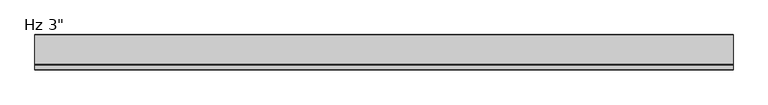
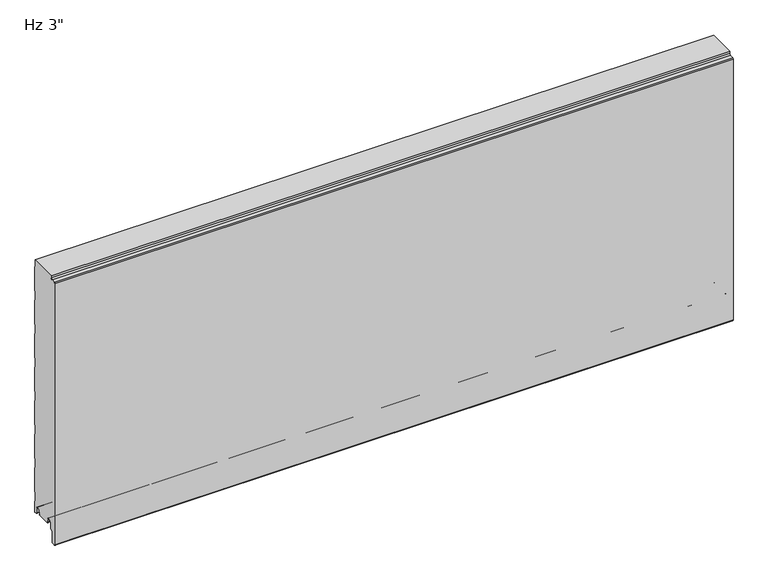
"""IFC4 building model written with IfcOpenShell, lengths in millimetres: plate geometry."""

from ifc_helpers import new_model, si_unit, frame, origin, place, context, project, spatial, polyline, circle_curve, source, transform, mapped, element, save
from ifc_brep_helpers import plane_surface, cylinder_surface, revolved_surface, advanced_brep


def plate_3cf2e204(model_context):
    return source(origin(), model_context, "Body", "AdvancedBrep", [
        advanced_brep(
        [(-730.0, -47.8708959, 1.0316999), (-730.0, -46.7014212, 2.2328239), (-730.0, -46.7014212, 5.9912173), (-730.0, -48.0999001, 5.9912173), (-730.0, -48.0999001, 8.6903283), (-730.0, -51.4498954, 12.0403236), (-730.0, -55.8498866, 12.0403236), (-730.0, -59.1998819, 8.6903283), (-730.0, -59.1998819, -3.1205608), (-730.0, -59.6977988, -4.3226385), (-730.0, -65.1998699, -9.8247096), (-730.0, -65.1998699, -31.9198392), (-730.0, -67.4184719, -34.5765709), (-730.0, -72.4002927, -35.0125699), (-730.0, -75.1946177, -32.4521176), (-730.0, -75.2000209, 561.115622), (-730.0, -73.4149468, 563.0669057), (-730.0, -64.95397, 563.821161), (-730.0, -62.1906671, 566.9653654), (-730.0, -62.1906671, 571.2), (-730.0, -2.2002516, 571.2), (-730.0, -2.2002516, 555.8186019), (-730.0, -1.0000209, 554.4329689), (-730.0, -1.0000209, 500.3795535), (-730.0, -2.2002516, 498.9939206), (-730.0, -2.2002516, 479.6187543), (-730.0, -1.0000209, 478.2331213), (-730.0, -1.0000209, 424.1797059), (-730.0, -2.2002516, 422.794073), (-730.0, -2.2002516, 403.4189067), (-730.0, -1.0000209, 402.0332737), (-730.0, -1.0000209, 347.9798583), (-730.0, -2.2002516, 346.5942254), (-730.0, -2.2002516, 327.2190591), (-730.0, -1.0000209, 325.8334261), (-730.0, -1.0000209, 271.7800107), (-730.0, -2.2002516, 270.3943778), (-730.0, -2.2002516, 251.0192115), (-730.0, -1.0000209, 249.6335785), (-730.0, -1.0000209, 195.5801631), (-730.0, -2.2002516, 194.1945302), (-730.0, -2.2002516, 174.8193639), (-730.0, -1.0000209, 173.4337309), (-730.0, -1.0000209, 119.3803155), (-730.0, -2.2002516, 117.9946826), (-730.0, -2.2002516, 98.6195163), (-730.0, -1.0000209, 97.2338833), (-730.0, -1.0000209, 43.1804679), (-730.0, -2.2002516, 41.794835), (-730.0, -2.2002516, 22.4196687), (-730.0, -1.0000126, 21.034026), (-730.0, -1.0000126, -3.4662506), (-730.0, -5.2315599, -3.4662506), (-730.0, -7.001554, -1.6962564), (-730.0, -7.001554, 8.7237222), (-730.0, -10.3015499, 12.023718), (-730.0, -14.7015411, 12.023718), (-730.0, -18.0015368, 8.7237223), (-730.0, -18.0015368, 6.0315125), (-730.0, -19.0015314, 6.0315125), (-730.0, -19.0015314, 2.0313089), (-730.0, -18.0015401, 1.0313117), (-730.0, -19.0328517, 0.0), (-730.0, -46.839196, 0.0), (730.0, -47.8708959, 1.0316999), (730.0, -46.839196, 0.0), (730.0, -19.0328517, 0.0), (730.0, -18.0015401, 1.0313117), (730.0, -19.0015314, 2.0313089), (730.0, -19.0015314, 6.0315125), (730.0, -18.0015368, 6.0315125), (730.0, -18.0015368, 8.7237223), (730.0, -14.7015411, 12.023718), (730.0, -10.3015499, 12.023718), (730.0, -7.001554, 8.7237222), (730.0, -7.001554, -1.6962564), (730.0, -5.2315599, -3.4662506), (730.0, -1.0000126, -3.4662506), (730.0, -1.0000126, 21.034026), (730.0, -2.2002516, 22.4196687), (730.0, -2.2002516, 41.794835), (730.0, -1.0000209, 43.1804679), (730.0, -1.0000209, 97.2338833), (730.0, -2.2002516, 98.6195163), (730.0, -2.2002516, 117.9946826), (730.0, -1.0000209, 119.3803155), (730.0, -1.0000209, 173.4337309), (730.0, -2.2002516, 174.8193639), (730.0, -2.2002516, 194.1945302), (730.0, -1.0000209, 195.5801631), (730.0, -1.0000209, 249.6335785), (730.0, -2.2002516, 251.0192115), (730.0, -2.2002516, 270.3943778), (730.0, -1.0000209, 271.7800107), (730.0, -1.0000209, 325.8334261), (730.0, -2.2002516, 327.2190591), (730.0, -2.2002516, 346.5942254), (730.0, -1.0000209, 347.9798583), (730.0, -1.0000209, 402.0332737), (730.0, -2.2002516, 403.4189067), (730.0, -2.2002516, 422.794073), (730.0, -1.0000209, 424.1797059), (730.0, -1.0000209, 478.2331213), (730.0, -2.2002516, 479.6187543), (730.0, -2.2002516, 498.9939206), (730.0, -1.0000209, 500.3795535), (730.0, -1.0000209, 554.4329689), (730.0, -2.2002516, 555.8186019), (730.0, -2.2002516, 571.2), (730.0, -62.1906671, 571.2), (730.0, -62.1906671, 566.9653654), (730.0, -64.95397, 563.821161), (730.0, -73.4149468, 563.0669057), (730.0, -75.2000209, 561.115622), (730.0, -75.2000209, -32.4521176), (730.0, -72.4002927, -35.0125699), (730.0, -67.4184719, -34.5765709), (730.0, -65.1998699, -31.9198392), (730.0, -65.1998699, -9.8247096), (730.0, -59.6977988, -4.3226385), (730.0, -59.1998819, -3.1205608), (730.0, -59.1998819, 8.6903283), (730.0, -55.8498866, 12.0403236), (730.0, -51.4498954, 12.0403236), (730.0, -48.0999001, 8.6903283), (730.0, -48.0999001, 5.9912173), (730.0, -46.7014212, 5.9912173), (730.0, -46.7014212, 2.2328239)],
        [
            (0, 1, circle_curve(frame((-730.0, -47.9014178, 2.2313092), z_axis=(1.0, 0.0, 0.0), x_axis=(0.0, 0.0, -1.0)), 1.1999976)),
            (1, 2),
            (2, 3),
            (3, 4),
            (4, 5, circle_curve(frame((-730.0, -51.4498954, 8.6903283), z_axis=(1.0, 0.0, 0.0), x_axis=(0.0, 0.0, -1.0)), 3.3499953)),
            (5, 6),
            (6, 7, circle_curve(frame((-730.0, -55.8498866, 8.6903283), z_axis=(1.0, 0.0, 0.0), x_axis=(0.0, 0.0, -1.0)), 3.3499953)),
            (7, 8),
            (8, 9, circle_curve(frame((-730.0, -60.8998765, -3.1205608), z_axis=(-1.0, 0.0, 0.0), x_axis=(0.0, 0.0, -1.0)), 1.6999946)),
            (9, 10),
            (10, 11),
            (11, 12, circle_curve(frame((-730.0, -67.8998625, -31.9198392), z_axis=(-1.0, 0.0, 0.0), x_axis=(0.0, 0.0, -1.0)), 2.6999926)),
            (12, 13),
            (13, 14, circle_curve(frame((-730.0, -72.6243784, -32.4521176), z_axis=(-1.0, 0.0, 0.0), x_axis=(0.0, 0.0, -1.0)), 2.5702393)),
            (14, 15),
            (15, 16, circle_curve(frame((-730.0, -73.2409993, 561.115622), z_axis=(-1.0, 0.0, 0.0), x_axis=(0.0, 0.0, -1.0)), 1.9590216)),
            (16, 17),
            (17, 18, circle_curve(frame((-730.0, -65.218053, 566.8396267), z_axis=(1.0, 0.0, 0.0), x_axis=(0.0, 0.0, -1.0)), 3.0299959)),
            (18, 19),
            (19, 20),
            (20, 21),
            (21, 22),
            (22, 23),
            (23, 24),
            (24, 25),
            (25, 26),
            (26, 27),
            (27, 28),
            (28, 29),
            (29, 30),
            (30, 31),
            (31, 32),
            (32, 33),
            (33, 34),
            (34, 35),
            (35, 36),
            (36, 37),
            (37, 38),
            (38, 39),
            (39, 40),
            (40, 41),
            (41, 42),
            (42, 43),
            (43, 44),
            (44, 45),
            (45, 46),
            (46, 47),
            (47, 48),
            (48, 49),
            (49, 50),
            (50, 51),
            (51, 52),
            (52, 53, circle_curve(frame((-730.0, -5.2315599, -1.6962564), z_axis=(-1.0, 0.0, 0.0), x_axis=(0.0, 0.0, 1.0)), 1.7699942)),
            (53, 54),
            (54, 55, circle_curve(frame((-730.0, -10.3015499, 8.7237222), z_axis=(1.0, 0.0, 0.0), x_axis=(0.0, 0.0, 1.0)), 3.2999959)),
            (55, 56),
            (56, 57, circle_curve(frame((-730.0, -14.7015411, 8.7237223), z_axis=(1.0, 0.0, 0.0), x_axis=(0.0, 0.0, 1.0)), 3.2999957)),
            (57, 58),
            (58, 59),
            (59, 60),
            (60, 61, circle_curve(frame((-730.0, -18.0015342, 2.0313089), z_axis=(1.0, 0.0, 0.0), x_axis=(0.0, 0.0, 1.0)), 0.9999972)),
            (61, 62),
            (62, 63),
            (63, 0),
            (64, 65),
            (65, 66),
            (66, 67),
            (67, 68, circle_curve(frame((730.0, -18.0015342, 2.0313089), z_axis=(-1.0, 0.0, 0.0), x_axis=(0.0, 0.0, 1.0)), 0.9999972)),
            (68, 69),
            (69, 70),
            (70, 71),
            (71, 72, circle_curve(frame((730.0, -14.7015411, 8.7237223), z_axis=(-1.0, 0.0, 0.0), x_axis=(0.0, 0.0, 1.0)), 3.2999957)),
            (72, 73),
            (73, 74, circle_curve(frame((730.0, -10.3015499, 8.7237222), z_axis=(-1.0, 0.0, 0.0), x_axis=(0.0, 0.0, 1.0)), 3.2999959)),
            (74, 75),
            (75, 76, circle_curve(frame((730.0, -5.2315599, -1.6962564), z_axis=(1.0, 0.0, 0.0), x_axis=(0.0, 0.0, 1.0)), 1.7699942)),
            (76, 77),
            (77, 78),
            (78, 79),
            (79, 80),
            (80, 81),
            (81, 82),
            (82, 83),
            (83, 84),
            (84, 85),
            (85, 86),
            (86, 87),
            (87, 88),
            (88, 89),
            (89, 90),
            (90, 91),
            (91, 92),
            (92, 93),
            (93, 94),
            (94, 95),
            (95, 96),
            (96, 97),
            (97, 98),
            (98, 99),
            (99, 100),
            (100, 101),
            (101, 102),
            (102, 103),
            (103, 104),
            (104, 105),
            (105, 106),
            (106, 107),
            (107, 108),
            (108, 109),
            (109, 110),
            (110, 111, circle_curve(frame((730.0, -65.218053, 566.8396267), z_axis=(-1.0, 0.0, 0.0), x_axis=(0.0, 0.0, -1.0)), 3.0299959)),
            (111, 112),
            (112, 113, circle_curve(frame((730.0, -73.2409993, 561.115622), z_axis=(1.0, 0.0, 0.0), x_axis=(0.0, 0.0, -1.0)), 1.9590216)),
            (113, 114),
            (114, 115, circle_curve(frame((730.0, -72.6243784, -32.4521176), z_axis=(1.0, 0.0, 0.0), x_axis=(0.0, 0.0, -1.0)), 2.5702393)),
            (115, 116),
            (116, 117, circle_curve(frame((730.0, -67.8998625, -31.9198392), z_axis=(1.0, 0.0, 0.0), x_axis=(0.0, 0.0, -1.0)), 2.6999926)),
            (117, 118),
            (118, 119),
            (119, 120, circle_curve(frame((730.0, -60.8998765, -3.1205608), z_axis=(1.0, 0.0, 0.0), x_axis=(0.0, 0.0, -1.0)), 1.6999946)),
            (120, 121),
            (121, 122, circle_curve(frame((730.0, -55.8498866, 8.6903283), z_axis=(-1.0, 0.0, 0.0), x_axis=(0.0, 0.0, -1.0)), 3.3499953)),
            (122, 123),
            (123, 124, circle_curve(frame((730.0, -51.4498954, 8.6903283), z_axis=(-1.0, 0.0, 0.0), x_axis=(0.0, 0.0, -1.0)), 3.3499953)),
            (124, 125),
            (125, 126),
            (126, 127),
            (127, 64, circle_curve(frame((730.0, -47.9014178, 2.2313092), z_axis=(-1.0, 0.0, 0.0), x_axis=(0.0, 0.0, -1.0)), 1.1999976)),
            (63, 65),
            (64, 0),
            (62, 66),
            (14, 114),
            (113, 15),
            (13, 115),
            (12, 116),
            (11, 117),
            (10, 118),
            (9, 119),
            (8, 120),
            (7, 121),
            (6, 122),
            (5, 123),
            (4, 124),
            (3, 125),
            (2, 126),
            (1, 127),
            (61, 67),
            (60, 68),
            (59, 69),
            (58, 70),
            (57, 71),
            (56, 72),
            (55, 73),
            (54, 74),
            (53, 75),
            (52, 76),
            (51, 77),
            (49, 79),
            (78, 50),
            (48, 80),
            (47, 81),
            (46, 82),
            (45, 83),
            (44, 84),
            (43, 85),
            (42, 86),
            (41, 87),
            (40, 88),
            (39, 89),
            (38, 90),
            (37, 91),
            (36, 92),
            (35, 93),
            (34, 94),
            (33, 95),
            (32, 96),
            (31, 97),
            (30, 98),
            (19, 109),
            (108, 20),
            (18, 110),
            (17, 111),
            (16, 112),
            (29, 99),
            (28, 100),
            (27, 101),
            (26, 102),
            (25, 103),
            (24, 104),
            (23, 105),
            (22, 106),
            (21, 107),
        ],
        [
            plane_surface(frame((-730.0, -75.2000209, 304.8), z_axis=(-1.0, 0.0, 0.0), x_axis=(0.0, -1.0, 0.0))),
            plane_surface(frame((730.0, -75.2000209, 304.8), z_axis=(1.0, 0.0, 0.0), x_axis=(0.0, -1.0, 0.0))),
            plane_surface(frame((-730.0, -47.8708959, 1.0316999), z_axis=(0.0, -0.7071067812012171, -0.707106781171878), x_axis=(1.0, 0.0, 0.0))),
            plane_surface(frame((-730.0, -46.839196, 0.0), z_axis=(0.0, 0.0, -1.0), x_axis=(1.0, 0.0, 0.0))),
            plane_surface(frame((-730.0, -75.2000209, 561.115622), z_axis=(0.0, -1.0, 0.0), x_axis=(1.0, 0.0, 0.0))),
            cylinder_surface(frame((-730.0, -72.6243784, -32.4521176), z_axis=(-1.0, 0.0, 0.0), x_axis=(0.0, 0.0, -1.0)), 2.5702393),
            plane_surface(frame((-730.0, -72.4002927, -35.0125699), z_axis=(0.0, 0.08718474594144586, -0.9961921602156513), x_axis=(1.0, 0.0, 0.0))),
            cylinder_surface(frame((-730.0, -67.8998625, -31.9198392), z_axis=(-1.0, 0.0, 0.0), x_axis=(0.0, 0.0, -1.0)), 2.6999926),
            plane_surface(frame((-730.0, -65.1998699, -31.9198392), z_axis=(0.0, 1.0, 0.0), x_axis=(1.0, 0.0, 0.0))),
            plane_surface(frame((-730.0, -65.1998699, -9.8247096), z_axis=(0.0, 0.7071067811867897, -0.7071067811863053), x_axis=(1.0, 0.0, 0.0))),
            cylinder_surface(frame((-730.0, -60.8998765, -3.1205608), z_axis=(-1.0, 0.0, 0.0), x_axis=(0.0, 0.0, -1.0)), 1.6999946),
            plane_surface(frame((-730.0, -59.1998819, -3.1205608), z_axis=(0.0, 1.0, 0.0), x_axis=(1.0, 0.0, 0.0))),
            revolved_surface(polyline([(730.0, -55.8498866, 5.340332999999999), (-730.0, -55.8498866, 5.340332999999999)]), (-730.0, -55.8498866, 8.6903283), (1.0, 0.0, 0.0)),
            plane_surface(frame((-730.0, -55.8498866, 12.0403236), z_axis=(0.0, 0.0, -1.0), x_axis=(1.0, 0.0, 0.0))),
            revolved_surface(polyline([(730.0, -51.4498954, 5.340332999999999), (-730.0, -51.4498954, 5.340332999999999)]), (-730.0, -51.4498954, 8.6903283), (1.0, 0.0, 0.0)),
            plane_surface(frame((-730.0, -48.0999001, 8.6903283), z_axis=(0.0, -1.0, 0.0), x_axis=(1.0, 0.0, 0.0))),
            plane_surface(frame((-730.0, -48.0999001, 5.9912173), z_axis=(0.0, 0.0, -1.0), x_axis=(1.0, 0.0, 0.0))),
            plane_surface(frame((-730.0, -46.7014212, 5.9912173), z_axis=(0.0, -1.0, 0.0), x_axis=(1.0, 0.0, 0.0))),
            revolved_surface(polyline([(730.0, -47.9014178, 1.0313116), (-730.0, -47.9014178, 1.0313116)]), (-730.0, -47.9014178, 2.2313092), (1.0, 0.0, 0.0)),
            plane_surface(frame((-730.0, -19.0328517, 0.0), z_axis=(0.0, 0.7071067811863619, -0.7071067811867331), x_axis=(1.0, 0.0, 0.0))),
            revolved_surface(polyline([(730.0, -18.0015342, 3.0313061), (-730.0, -18.0015342, 3.0313061)]), (-730.0, -18.0015342, 2.0313089), (1.0, 0.0, 0.0)),
            plane_surface(frame((-730.0, -19.0015314, 2.0313089), z_axis=(0.0, 1.0, 0.0), x_axis=(1.0, 0.0, 0.0))),
            plane_surface(frame((-730.0, -19.0015314, 6.0315125), z_axis=(0.0, 0.0, -1.0), x_axis=(1.0, 0.0, 0.0))),
            plane_surface(frame((-730.0, -18.0015368, 6.0315125), z_axis=(0.0, 1.0, 0.0), x_axis=(1.0, 0.0, 0.0))),
            revolved_surface(polyline([(730.0, -14.7015411, 12.023718), (-730.0, -14.7015411, 12.023718)]), (-730.0, -14.7015411, 8.7237223), (1.0, 0.0, 0.0)),
            plane_surface(frame((-730.0, -14.7015411, 12.023718), z_axis=(0.0, 0.0, -1.0), x_axis=(1.0, 0.0, 0.0))),
            revolved_surface(polyline([(730.0, -10.3015499, 12.0237181), (-730.0, -10.3015499, 12.0237181)]), (-730.0, -10.3015499, 8.7237222), (1.0, 0.0, 0.0)),
            plane_surface(frame((-730.0, -7.001554, 8.7237222), z_axis=(0.0, -1.0, 0.0), x_axis=(1.0, 0.0, 0.0))),
            cylinder_surface(frame((-730.0, -5.2315599, -1.6962564), z_axis=(-1.0, 0.0, 0.0), x_axis=(0.0, 0.0, 1.0)), 1.7699942),
            plane_surface(frame((-730.0, -5.2315599, -3.4662506), z_axis=(0.0, 0.0, -1.0), x_axis=(1.0, 0.0, 0.0))),
            plane_surface(frame((-730.0, -1.0000126, 21.034026), z_axis=(0.0, 0.7558648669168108, 0.6547276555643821), x_axis=(1.0, 0.0, 0.0))),
            plane_surface(frame((-730.0, -1.0000126, -3.4662506), z_axis=(0.0, 1.0, 0.0), x_axis=(1.0, 0.0, 0.0))),
            plane_surface(frame((-730.0, -2.2002516, 22.4196687), z_axis=(0.0, 1.0, 0.0), x_axis=(1.0, 0.0, 0.0))),
            plane_surface(frame((-730.0, -2.2002516, 41.794835), z_axis=(0.0, 0.7558648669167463, -0.6547276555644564), x_axis=(1.0, 0.0, 0.0))),
            plane_surface(frame((-730.0, -1.0000209, 43.1804679), z_axis=(0.0, 1.0, 0.0), x_axis=(1.0, 0.0, 0.0))),
            plane_surface(frame((-730.0, -1.0000209, 97.2338833), z_axis=(0.0, 0.7558648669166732, 0.6547276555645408), x_axis=(1.0, 0.0, 0.0))),
            plane_surface(frame((-730.0, -2.2002516, 98.6195163), z_axis=(0.0, 1.0, 0.0), x_axis=(1.0, 0.0, 0.0))),
            plane_surface(frame((-730.0, -2.2002516, 117.9946826), z_axis=(0.0, 0.7558648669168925, -0.6547276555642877), x_axis=(1.0, 0.0, 0.0))),
            plane_surface(frame((-730.0, -1.0000209, 119.3803155), z_axis=(0.0, 1.0, 0.0), x_axis=(1.0, 0.0, 0.0))),
            plane_surface(frame((-730.0, -1.0000209, 173.4337309), z_axis=(0.0, 0.7558648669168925, 0.6547276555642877), x_axis=(1.0, 0.0, 0.0))),
            plane_surface(frame((-730.0, -2.2002516, 174.8193639), z_axis=(0.0, 1.0, 0.0), x_axis=(1.0, 0.0, 0.0))),
            plane_surface(frame((-730.0, -2.2002516, 194.1945302), z_axis=(0.0, 0.7558648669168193, -0.6547276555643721), x_axis=(1.0, 0.0, 0.0))),
            plane_surface(frame((-730.0, -1.0000209, 195.5801631), z_axis=(0.0, 1.0, 0.0), x_axis=(1.0, 0.0, 0.0))),
            plane_surface(frame((-730.0, -1.0000209, 249.6335785), z_axis=(0.0, 0.7558648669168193, 0.6547276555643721), x_axis=(1.0, 0.0, 0.0))),
            plane_surface(frame((-730.0, -2.2002516, 251.0192115), z_axis=(0.0, 1.0, 0.0), x_axis=(1.0, 0.0, 0.0))),
            plane_surface(frame((-730.0, -2.2002516, 270.3943778), z_axis=(0.0, 0.7558648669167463, -0.6547276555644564), x_axis=(1.0, 0.0, 0.0))),
            plane_surface(frame((-730.0, -1.0000209, 271.7800107), z_axis=(0.0, 1.0, 0.0), x_axis=(1.0, 0.0, 0.0))),
            plane_surface(frame((-730.0, -1.0000209, 325.8334261), z_axis=(0.0, 0.7558648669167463, 0.6547276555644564), x_axis=(1.0, 0.0, 0.0))),
            plane_surface(frame((-730.0, -2.2002516, 327.2190591), z_axis=(0.0, 1.0, 0.0), x_axis=(1.0, 0.0, 0.0))),
            plane_surface(frame((-730.0, -2.2002516, 346.5942254), z_axis=(0.0, 0.7558648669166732, -0.6547276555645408), x_axis=(1.0, 0.0, 0.0))),
            plane_surface(frame((-730.0, -1.0000209, 347.9798583), z_axis=(0.0, 1.0, 0.0), x_axis=(1.0, 0.0, 0.0))),
            plane_surface(frame((730.0, 9.9999791, 571.2), z_axis=(0.0, 0.0, 1.0), x_axis=(-1.0, 0.0, 0.0))),
            plane_surface(frame((-730.0, -62.1906671, 577.0583308), z_axis=(0.0, -1.0, 0.0), x_axis=(1.0, 0.0, 0.0))),
            revolved_surface(polyline([(730.0, -65.218053, 563.8096308), (-730.0, -65.218053, 563.8096308)]), (-730.0, -65.218053, 566.8396267), (1.0, 0.0, 0.0)),
            plane_surface(frame((-730.0, -64.95397, 563.821161), z_axis=(0.0, -0.08879306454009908, 0.9960500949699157), x_axis=(1.0, 0.0, 0.0))),
            cylinder_surface(frame((-730.0, -73.2409993, 561.115622), z_axis=(-1.0, 0.0, 0.0), x_axis=(0.0, 0.0, -1.0)), 1.9590216),
            plane_surface(frame((-730.0, -1.0000209, 402.0332737), z_axis=(0.0, 0.7558648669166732, 0.6547276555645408), x_axis=(1.0, 0.0, 0.0))),
            plane_surface(frame((-730.0, -2.2002516, 403.4189067), z_axis=(0.0, 1.0, 0.0), x_axis=(1.0, 0.0, 0.0))),
            plane_surface(frame((-730.0, -2.2002516, 422.794073), z_axis=(0.0, 0.755864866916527, -0.6547276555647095), x_axis=(1.0, 0.0, 0.0))),
            plane_surface(frame((-730.0, -1.0000209, 424.1797059), z_axis=(0.0, 1.0, 0.0), x_axis=(1.0, 0.0, 0.0))),
            plane_surface(frame((-730.0, -1.0000209, 478.2331213), z_axis=(0.0, 0.755864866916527, 0.6547276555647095), x_axis=(1.0, 0.0, 0.0))),
            plane_surface(frame((-730.0, -2.2002516, 479.6187543), z_axis=(0.0, 1.0, 0.0), x_axis=(1.0, 0.0, 0.0))),
            plane_surface(frame((-730.0, -2.2002516, 498.9939206), z_axis=(0.0, 0.755864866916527, -0.6547276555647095), x_axis=(1.0, 0.0, 0.0))),
            plane_surface(frame((-730.0, -1.0000209, 500.3795535), z_axis=(0.0, 1.0, 0.0), x_axis=(1.0, 0.0, 0.0))),
            plane_surface(frame((-730.0, -1.0000209, 554.4329689), z_axis=(0.0, 0.755864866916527, 0.6547276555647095), x_axis=(1.0, 0.0, 0.0))),
            plane_surface(frame((-730.0, -2.2002516, 555.8186019), z_axis=(0.0, 1.0, 0.0), x_axis=(1.0, 0.0, 0.0))),
        ],
        [
            (0, [[1, 2, 3, 4, 5, 6, 7, 8, 9, 10, 11, 12, 13, 14, 15, 16, 17, 18, 19, 20, 21, 22, 23, 24, 25, 26, 27, 28, 29, 30, 31, 32, 33, 34, 35, 36, 37, 38, 39, 40, 41, 42, 43, 44, 45, 46, 47, 48, 49, 50, 51, 52, 53, 54, 55, 56, 57, 58, 59, 60, 61, 62, 63, 64]]),
            (1, [[65, 66, 67, 68, 69, 70, 71, 72, 73, 74, 75, 76, 77, 78, 79, 80, 81, 82, 83, 84, 85, 86, 87, 88, 89, 90, 91, 92, 93, 94, 95, 96, 97, 98, 99, 100, 101, 102, 103, 104, 105, 106, 107, 108, 109, 110, 111, 112, 113, 114, 115, 116, 117, 118, 119, 120, 121, 122, 123, 124, 125, 126, 127, 128]]),
            (2, [[129, -65, 130, -64]]),
            (3, [[-63, 131, -66, -129]]),
            (4, [[132, -114, 133, -15]]),
            (5, [[134, -115, -132, -14]]),
            (6, [[135, -116, -134, -13]]),
            (7, [[136, -117, -135, -12]]),
            (8, [[137, -118, -136, -11]]),
            (9, [[138, -119, -137, -10]]),
            (10, [[139, -120, -138, -9]]),
            (11, [[140, -121, -139, -8]]),
            (12, [[141, -122, -140, -7]]),
            (13, [[142, -123, -141, -6]]),
            (14, [[143, -124, -142, -5]]),
            (15, [[144, -125, -143, -4]]),
            (16, [[145, -126, -144, -3]]),
            (17, [[146, -127, -145, -2]]),
            (18, [[-130, -128, -146, -1]]),
            (19, [[147, -67, -131, -62]]),
            (20, [[148, -68, -147, -61]]),
            (21, [[149, -69, -148, -60]]),
            (22, [[150, -70, -149, -59]]),
            (23, [[151, -71, -150, -58]]),
            (24, [[152, -72, -151, -57]]),
            (25, [[153, -73, -152, -56]]),
            (26, [[154, -74, -153, -55]]),
            (27, [[155, -75, -154, -54]]),
            (28, [[156, -76, -155, -53]]),
            (29, [[157, -77, -156, -52]]),
            (30, [[158, -79, 159, -50]]),
            (31, [[-159, -78, -157, -51]]),
            (32, [[160, -80, -158, -49]]),
            (33, [[161, -81, -160, -48]]),
            (34, [[162, -82, -161, -47]]),
            (35, [[163, -83, -162, -46]]),
            (36, [[164, -84, -163, -45]]),
            (37, [[165, -85, -164, -44]]),
            (38, [[166, -86, -165, -43]]),
            (39, [[167, -87, -166, -42]]),
            (40, [[168, -88, -167, -41]]),
            (41, [[169, -89, -168, -40]]),
            (42, [[170, -90, -169, -39]]),
            (43, [[171, -91, -170, -38]]),
            (44, [[172, -92, -171, -37]]),
            (45, [[173, -93, -172, -36]]),
            (46, [[174, -94, -173, -35]]),
            (47, [[175, -95, -174, -34]]),
            (48, [[176, -96, -175, -33]]),
            (49, [[177, -97, -176, -32]]),
            (50, [[178, -98, -177, -31]]),
            (51, [[179, -109, 180, -20]]),
            (52, [[-110, -179, -19, 181]]),
            (53, [[182, -111, -181, -18]]),
            (54, [[183, -112, -182, -17]]),
            (55, [[-133, -113, -183, -16]]),
            (56, [[184, -99, -178, -30]]),
            (57, [[185, -100, -184, -29]]),
            (58, [[186, -101, -185, -28]]),
            (59, [[187, -102, -186, -27]]),
            (60, [[188, -103, -187, -26]]),
            (61, [[189, -104, -188, -25]]),
            (62, [[190, -105, -189, -24]]),
            (63, [[191, -106, -190, -23]]),
            (64, [[192, -107, -191, -22]]),
            (65, [[-21, -180, -108, -192]]),
        ],
    ),
    ])


if __name__ == "__main__":
    model = new_model("IFC4")
    model_context = context("Model", 3, world=origin())
    ifc_project = project(units=[si_unit("LENGTHUNIT", "METRE", prefix="MILLI")], contexts=[model_context])
    site = spatial("IfcSite", under=ifc_project)
    building = spatial("IfcBuilding", under=site)
    placement = place(None, origin())
    plate_shape = plate_3cf2e204(model_context)
    element("IfcPlate", 1, ObjectType="KIP-24-Karrier-KP-R19-CP-Hz-FL3-8in_SL : Hz 3\"", at=placement, inside=building, context=model_context, shape_type="MappedRepresentation", body=[
        mapped(plate_shape, transform((0.0, 0.0, 0.0), x_axis=(1.0, 0.0, 0.0), y_axis=(0.0, 1.0, 0.0), z_axis=(0.0, 0.0, 1.0))),
    ])
    save(model, "model.ifc")
